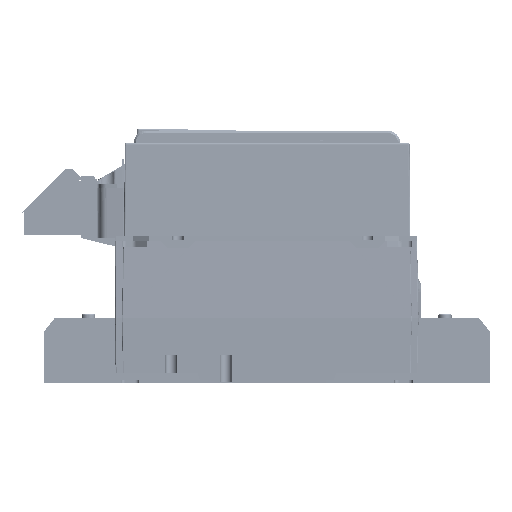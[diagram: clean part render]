
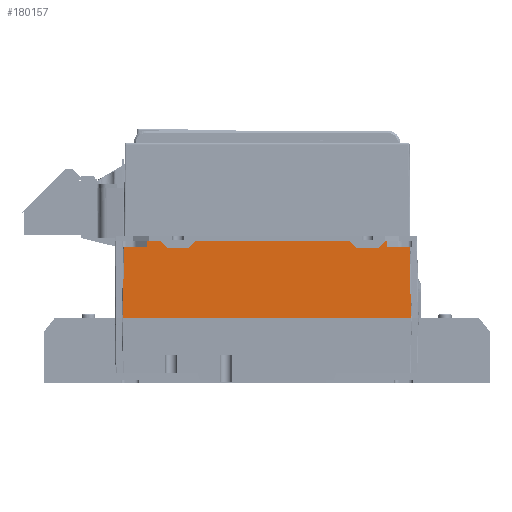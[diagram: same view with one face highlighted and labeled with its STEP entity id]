
A CAD part, front view. The second image highlights one B-rep face of the part: STEP entity #180157.
In plain terms, the highlighted planar face has unit normal (0, -1, 0.019).
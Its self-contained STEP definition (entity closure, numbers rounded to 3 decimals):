
#3424=DIRECTION('',(-1.,0.,0.));
#3425=VECTOR('',#3424,16.65);
#3426=CARTESIAN_POINT('',(9.75,-208.988,52.));
#3427=LINE('',#3426,#3425);
#3438=CARTESIAN_POINT('',(-7.9,-210.,
0.));
#3591=DIRECTION('',(1.,0.,0.));
#3592=VECTOR('',#3591,15.5);
#3593=CARTESIAN_POINT('',(163.25,-208.999,51.5));
#3594=LINE('',#3593,#3592);
#3595=DIRECTION('',(0.019,-0.019,-1.));
#3596=VECTOR('',#3595,52.019);
#3597=CARTESIAN_POINT('',(201.9,-208.988,52.));
#3598=LINE('',#3597,#3596);
#3599=DIRECTION('',(1.,0.,0.));
#3600=VECTOR('',#3599,210.8);
#3601=CARTESIAN_POINT('',(-7.9,-210.,
0.));
#3602=LINE('',#3601,#3600);
#3603=DIRECTION('',(0.019,0.019,1.));
#3604=VECTOR('',#3603,52.019);
#3605=CARTESIAN_POINT('',(-7.9,-210.,
0.));
#3606=LINE('',#3605,#3604);
#3607=DIRECTION('',(1.,0.,0.));
#3608=VECTOR('',#3607,8.5);
#3609=CARTESIAN_POINT('',(11.,-208.9,56.5));
#3610=LINE('',#3609,#3608);
#3611=DIRECTION('',(-1.,0.,0.));
#3612=VECTOR('',#3611,15.5);
#3613=CARTESIAN_POINT('',(40.25,-208.999,51.5));
#3614=LINE('',#3613,#3612);
#3615=DIRECTION('',(1.,0.,0.));
#3616=VECTOR('',#3615,112.5);
#3617=CARTESIAN_POINT('',(45.5,-208.9,56.5));
#3618=LINE('',#3617,#3616);
#3687=DIRECTION('',(-1.,0.005,0.));
#3688=VECTOR('',#3687,0.25);
#3689=CARTESIAN_POINT('',(163.25,-208.999,51.5));
#3690=LINE('',#3689,#3688);
#3707=DIRECTION('',(-0.707,0.014,0.707));
#3708=VECTOR('',#3707,7.072);
#3709=CARTESIAN_POINT('',(163.,-208.997,51.5));
#3710=LINE('',#3709,#3708);
#3719=DIRECTION('',(-0.707,-0.014,-0.707));
#3720=VECTOR('',#3719,7.072);
#3721=CARTESIAN_POINT('',(45.5,-208.9,56.5));
#3722=LINE('',#3721,#3720);
#3764=DIRECTION('',(-1.,-0.005,0.));
#3765=VECTOR('',#3764,0.25);
#3766=CARTESIAN_POINT('',(40.5,-208.997,51.5));
#3767=LINE('',#3766,#3765);
#4430=DIRECTION('',(-1.,0.005,0.));
#4431=VECTOR('',#4430,0.25);
#4432=CARTESIAN_POINT('',(24.75,-208.999,51.5));
#4433=LINE('',#4432,#4431);
#4475=DIRECTION('',(-0.707,0.014,0.707));
#4476=VECTOR('',#4475,7.072);
#4477=CARTESIAN_POINT('',(24.5,-208.997,51.5));
#4478=LINE('',#4477,#4476);
#4499=DIRECTION('',(-1.,0.,0.));
#4500=VECTOR('',#4499,1.25);
#4501=CARTESIAN_POINT('',(11.,-208.9,56.5));
#4502=LINE('',#4501,#4500);
#4511=DIRECTION('',(0.,-0.019,-1.));
#4512=VECTOR('',#4511,4.501);
#4513=CARTESIAN_POINT('',(9.75,-208.9,56.5));
#4514=LINE('',#4513,#4512);
#5018=DIRECTION('',(-0.707,-0.014,-0.707));
#5019=VECTOR('',#5018,7.072);
#5020=CARTESIAN_POINT('',(184.,-208.9,56.5));
#5021=LINE('',#5020,#5019);
#5047=DIRECTION('',(-1.,0.,0.));
#5048=VECTOR('',#5047,1.25);
#5049=CARTESIAN_POINT('',(185.25,-208.9,56.5));
#5050=LINE('',#5049,#5048);
#127253=DIRECTION('',(-1.,0.,0.));
#127254=VECTOR('',#127253,16.65);
#127255=CARTESIAN_POINT('',(201.9,-208.988,52.));
#127256=LINE('',#127255,#127254);
#127297=DIRECTION('',(0.,0.019,1.));
#127298=VECTOR('',#127297,4.501);
#127299=CARTESIAN_POINT('',(185.25,-208.988,52.));
#127300=LINE('',#127299,#127298);
#129214=DIRECTION('',(-1.,-0.005,
0.));
#129215=VECTOR('',#129214,0.25);
#129216=CARTESIAN_POINT('',(179.,-208.997,51.5));
#129217=LINE('',#129216,#129215);
#137557=CARTESIAN_POINT('',(185.25,-208.9,56.5));
#137558=VERTEX_POINT('',#137557);
#137559=CARTESIAN_POINT('',(184.,-208.9,56.5));
#137560=VERTEX_POINT('',#137559);
#137585=CARTESIAN_POINT('',(9.75,-208.9,56.5));
#137587=VERTEX_POINT('',#137585);
#137649=CARTESIAN_POINT('',(179.,-208.997,51.5));
#137651=VERTEX_POINT('',#137649);
#137653=CARTESIAN_POINT('',(163.,-208.997,51.5));
#137655=VERTEX_POINT('',#137653);
#137672=CARTESIAN_POINT('',(9.75,-208.988,52.));
#137673=CARTESIAN_POINT('',(-6.9,-208.988,52.));
#137674=VERTEX_POINT('',#137672);
#137675=VERTEX_POINT('',#137673);
#137676=CARTESIAN_POINT('',(185.25,-208.988,52.));
#137677=VERTEX_POINT('',#137676);
#137678=CARTESIAN_POINT('',(201.9,-208.988,52.));
#137679=VERTEX_POINT('',#137678);
#138992=CARTESIAN_POINT('',(24.5,-208.997,51.5));
#138993=VERTEX_POINT('',#138992);
#138994=CARTESIAN_POINT('',(40.5,-208.997,51.5));
#138995=VERTEX_POINT('',#138994);
#141405=VERTEX_POINT('',#3438);
#141406=CARTESIAN_POINT('',(202.9,-210.,
0.));
#141407=VERTEX_POINT('',#141406);
#175463=CARTESIAN_POINT('',(11.,-208.9,56.5));
#175465=VERTEX_POINT('',#175463);
#175489=CARTESIAN_POINT('',(178.75,-208.999,51.5));
#175491=VERTEX_POINT('',#175489);
#175507=CARTESIAN_POINT('',(163.25,-208.999,51.5));
#175509=VERTEX_POINT('',#175507);
#175529=CARTESIAN_POINT('',(158.,-208.9,56.5));
#175530=VERTEX_POINT('',#175529);
#175531=CARTESIAN_POINT('',(19.5,-208.9,56.5));
#175532=VERTEX_POINT('',#175531);
#175533=CARTESIAN_POINT('',(45.5,-208.9,56.5));
#175534=VERTEX_POINT('',#175533);
#175535=CARTESIAN_POINT('',(40.25,-208.999,51.5));
#175536=CARTESIAN_POINT('',(24.75,-208.999,51.5));
#175537=VERTEX_POINT('',#175535);
#175538=VERTEX_POINT('',#175536);
#180111=CARTESIAN_POINT('',(232.905,-210.,0.));
#180112=DIRECTION('',(0.,1.,-0.019));
#180113=DIRECTION('',(0.,0.019,1.));
#180114=AXIS2_PLACEMENT_3D('',#180111,#180112,#180113);
#180115=PLANE('',#180114);
#180117=ORIENTED_EDGE('',*,*,#180116,.T.);
#180119=ORIENTED_EDGE('',*,*,#180118,.F.);
#180121=ORIENTED_EDGE('',*,*,#180120,.F.);
#180123=ORIENTED_EDGE('',*,*,#180122,.F.);
#180125=ORIENTED_EDGE('',*,*,#180124,.F.);
#180127=ORIENTED_EDGE('',*,*,#180126,.F.);
#180129=ORIENTED_EDGE('',*,*,#180128,.T.);
#180130=ORIENTED_EDGE('',*,*,#180069,.F.);
#180131=ORIENTED_EDGE('',*,*,#179916,.T.);
#180132=ORIENTED_EDGE('',*,*,#179895,.F.);
#180134=ORIENTED_EDGE('',*,*,#180133,.F.);
#180136=ORIENTED_EDGE('',*,*,#180135,.F.);
#180138=ORIENTED_EDGE('',*,*,#180137,.T.);
#180140=ORIENTED_EDGE('',*,*,#180139,.F.);
#180142=ORIENTED_EDGE('',*,*,#180141,.F.);
#180144=ORIENTED_EDGE('',*,*,#180143,.F.);
#180146=ORIENTED_EDGE('',*,*,#180145,.F.);
#180148=ORIENTED_EDGE('',*,*,#180147,.F.);
#180150=ORIENTED_EDGE('',*,*,#180149,.T.);
#180152=ORIENTED_EDGE('',*,*,#180151,.F.);
#180154=ORIENTED_EDGE('',*,*,#180153,.F.);
#180155=EDGE_LOOP('',(#180117,#180119,#180121,#180123,#180125,#180127,#180129,
#180130,#180131,#180132,#180134,#180136,#180138,#180140,#180142,#180144,#180146,
#180148,#180150,#180152,#180154));
#180156=FACE_OUTER_BOUND('',#180155,.F.);
#180157=ADVANCED_FACE('',(#180156),#180115,.F.);
#179895=EDGE_CURVE('',#137674,#137675,#3427,.T.);
#179916=EDGE_CURVE('',#141405,#137675,#3606,.T.);
#180069=EDGE_CURVE('',#141405,#141407,#3602,.T.);
#180116=EDGE_CURVE('',#175509,#175491,#3594,.T.);
#180118=EDGE_CURVE('',#137651,#175491,#129217,.T.);
#180120=EDGE_CURVE('',#137560,#137651,#5021,.T.);
#180122=EDGE_CURVE('',#137558,#137560,#5050,.T.);
#180124=EDGE_CURVE('',#137677,#137558,#127300,.T.);
#180126=EDGE_CURVE('',#137679,#137677,#127256,.T.);
#180128=EDGE_CURVE('',#137679,#141407,#3598,.T.);
#180133=EDGE_CURVE('',#137587,#137674,#4514,.T.);
#180135=EDGE_CURVE('',#175465,#137587,#4502,.T.);
#180137=EDGE_CURVE('',#175465,#175532,#3610,.T.);
#180139=EDGE_CURVE('',#138993,#175532,#4478,.T.);
#180141=EDGE_CURVE('',#175538,#138993,#4433,.T.);
#180143=EDGE_CURVE('',#175537,#175538,#3614,.T.);
#180145=EDGE_CURVE('',#138995,#175537,#3767,.T.);
#180147=EDGE_CURVE('',#175534,#138995,#3722,.T.);
#180149=EDGE_CURVE('',#175534,#175530,#3618,.T.);
#180151=EDGE_CURVE('',#137655,#175530,#3710,.T.);
#180153=EDGE_CURVE('',#175509,#137655,#3690,.T.);
